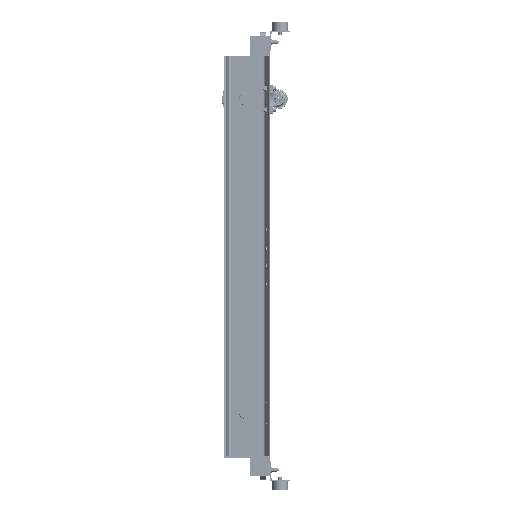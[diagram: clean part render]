
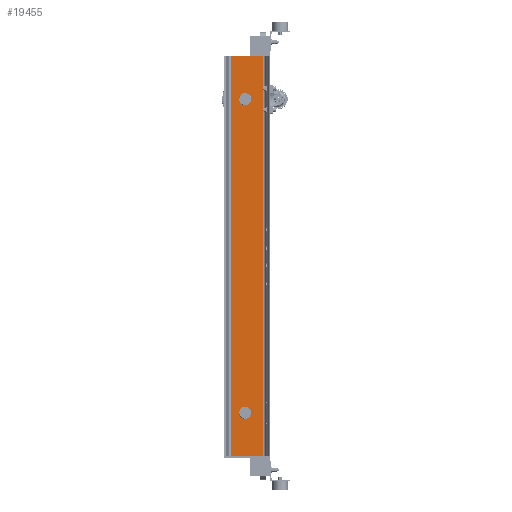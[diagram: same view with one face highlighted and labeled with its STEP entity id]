
A CAD part, left-side view. The second image highlights one B-rep face of the part: STEP entity #19455.
In plain terms, the highlighted planar face has unit normal (-1, 0, 0) as drawn and (1, 0, 0) by its records, which use the part's own axes.
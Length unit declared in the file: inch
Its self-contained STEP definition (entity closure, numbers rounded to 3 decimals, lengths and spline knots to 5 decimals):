
#149 = EDGE_CURVE ( 'NONE', #111053, #9814, #190556, .T. ) ;
#1996 = EDGE_LOOP ( 'NONE', ( #44565, #108482 ) ) ;
#2514 = VECTOR ( 'NONE', #136296, 39.37008 ) ;
#7405 = ORIENTED_EDGE ( 'NONE', *, *, #147266, .F. ) ;
#9814 = VERTEX_POINT ( 'NONE', #11564 ) ;
#11564 = CARTESIAN_POINT ( 'NONE',  ( 0.375, 1.23024, 35. ) ) ;
#12165 = AXIS2_PLACEMENT_3D ( 'NONE', #181680, #91327, #106069 ) ;
#14256 = AXIS2_PLACEMENT_3D ( 'NONE', #160265, #172073, #157355 ) ;
#14261 = AXIS2_PLACEMENT_3D ( 'NONE', #52495, #112457, #175027 ) ;
#14588 = ORIENTED_EDGE ( 'NONE', *, *, #82759, .F. ) ;
#16430 = LINE ( 'NONE', #76355, #2514 ) ;
#17256 = CARTESIAN_POINT ( 'NONE',  ( 0.375, 1.23024, -35. ) ) ;
#19455 = ADVANCED_FACE ( 'NONE', ( #95345, #125802, #111065 ), #155286, .T. ) ;
#20103 = CARTESIAN_POINT ( 'NONE',  ( 0.375, 1.23024, 35. ) ) ;
#20676 = CARTESIAN_POINT ( 'NONE',  ( 0.375, 6.76976, 35. ) ) ;
#21187 = CARTESIAN_POINT ( 'NONE',  ( 0.375, 6.76976, 35. ) ) ;
#30319 = AXIS2_PLACEMENT_3D ( 'NONE', #35800, #112455, #97682 ) ;
#35800 = CARTESIAN_POINT ( 'NONE',  ( 0.375, 4.356, -27.5 ) ) ;
#39710 = CIRCLE ( 'NONE', #30319, 0.986 ) ;
#42024 = VECTOR ( 'NONE', #110509, 39.37008 ) ;
#43399 = CIRCLE ( 'NONE', #12165, 0.986 ) ;
#44565 = ORIENTED_EDGE ( 'NONE', *, *, #187760, .F. ) ;
#51508 = LINE ( 'NONE', #20103, #42024 ) ;
#52495 = CARTESIAN_POINT ( 'NONE',  ( 0.375, 4.356, 27.5 ) ) ;
#62390 = EDGE_CURVE ( 'NONE', #94109, #192550, #39710, .T. ) ;
#70058 = VERTEX_POINT ( 'NONE', #100176 ) ;
#70127 = CARTESIAN_POINT ( 'NONE',  ( 0.375, 6.76976, 35. ) ) ;
#74421 = EDGE_CURVE ( 'NONE', #186438, #70058, #43399, .T. ) ;
#76355 = CARTESIAN_POINT ( 'NONE',  ( 0.375, 6.76976, -35. ) ) ;
#82108 = CARTESIAN_POINT ( 'NONE',  ( 0.375, 3.37, -27.5 ) ) ;
#82759 = EDGE_CURVE ( 'NONE', #98529, #141587, #16430, .T. ) ;
#83344 = VECTOR ( 'NONE', #104466, 39.37008 ) ;
#91327 = DIRECTION ( 'NONE',  ( 1., 0., 0. ) ) ;
#94109 = VERTEX_POINT ( 'NONE', #82108 ) ;
#95345 = FACE_BOUND ( 'NONE', #1996, .T. ) ;
#97682 = DIRECTION ( 'NONE',  ( 0., 1., 0. ) ) ;
#98529 = VERTEX_POINT ( 'NONE', #141380 ) ;
#98871 = VECTOR ( 'NONE', #103051, 39.37008 ) ;
#100176 = CARTESIAN_POINT ( 'NONE',  ( 0.375, 3.37, 27.5 ) ) ;
#103051 = DIRECTION ( 'NONE',  ( 0., -1., 0. ) ) ;
#103909 = EDGE_CURVE ( 'NONE', #9814, #141587, #51508, .T. ) ;
#104466 = DIRECTION ( 'NONE',  ( 0., 0., -1. ) ) ;
#106069 = DIRECTION ( 'NONE',  ( 0., 1., 0. ) ) ;
#108482 = ORIENTED_EDGE ( 'NONE', *, *, #62390, .F. ) ;
#110509 = DIRECTION ( 'NONE',  ( 0., 0., -1. ) ) ;
#111053 = VERTEX_POINT ( 'NONE', #21187 ) ;
#111065 = FACE_OUTER_BOUND ( 'NONE', #117292, .T. ) ;
#112455 = DIRECTION ( 'NONE',  ( 1., 0., 0. ) ) ;
#112457 = DIRECTION ( 'NONE',  ( 1., 0., 0. ) ) ;
#112875 = EDGE_CURVE ( 'NONE', #70058, #186438, #158595, .T. ) ;
#113357 = AXIS2_PLACEMENT_3D ( 'NONE', #20676, #185714, #156274 ) ;
#117292 = EDGE_LOOP ( 'NONE', ( #14588, #7405, #139265, #166330 ) ) ;
#119460 = CARTESIAN_POINT ( 'NONE',  ( 0.375, 5.342, 27.5 ) ) ;
#125802 = FACE_BOUND ( 'NONE', #131811, .T. ) ;
#129630 = CARTESIAN_POINT ( 'NONE',  ( 0.375, 6.76976, 35. ) ) ;
#131811 = EDGE_LOOP ( 'NONE', ( #170049, #182731 ) ) ;
#136296 = DIRECTION ( 'NONE',  ( 0., -1., 0. ) ) ;
#139265 = ORIENTED_EDGE ( 'NONE', *, *, #149, .T. ) ;
#141380 = CARTESIAN_POINT ( 'NONE',  ( 0.375, 6.76976, -35. ) ) ;
#141587 = VERTEX_POINT ( 'NONE', #17256 ) ;
#147266 = EDGE_CURVE ( 'NONE', #111053, #98529, #175284, .T. ) ;
#155286 = PLANE ( 'NONE',  #113357 ) ;
#156274 = DIRECTION ( 'NONE',  ( 0., 0., -1. ) ) ;
#157355 = DIRECTION ( 'NONE',  ( 0., 1., 0. ) ) ;
#158595 = CIRCLE ( 'NONE', #14261, 0.986 ) ;
#160265 = CARTESIAN_POINT ( 'NONE',  ( 0.375, 4.356, -27.5 ) ) ;
#166330 = ORIENTED_EDGE ( 'NONE', *, *, #103909, .T. ) ;
#170049 = ORIENTED_EDGE ( 'NONE', *, *, #74421, .F. ) ;
#172073 = DIRECTION ( 'NONE',  ( 1., 0., 0. ) ) ;
#175027 = DIRECTION ( 'NONE',  ( 0., 1., 0. ) ) ;
#175284 = LINE ( 'NONE', #70127, #83344 ) ;
#181680 = CARTESIAN_POINT ( 'NONE',  ( 0.375, 4.356, 27.5 ) ) ;
#182731 = ORIENTED_EDGE ( 'NONE', *, *, #112875, .F. ) ;
#185714 = DIRECTION ( 'NONE',  ( 1., 0., 0. ) ) ;
#186438 = VERTEX_POINT ( 'NONE', #119460 ) ;
#187362 = CARTESIAN_POINT ( 'NONE',  ( 0.375, 5.342, -27.5 ) ) ;
#187760 = EDGE_CURVE ( 'NONE', #192550, #94109, #189861, .T. ) ;
#189861 = CIRCLE ( 'NONE', #14256, 0.986 ) ;
#190556 = LINE ( 'NONE', #129630, #98871 ) ;
#192550 = VERTEX_POINT ( 'NONE', #187362 ) ;
